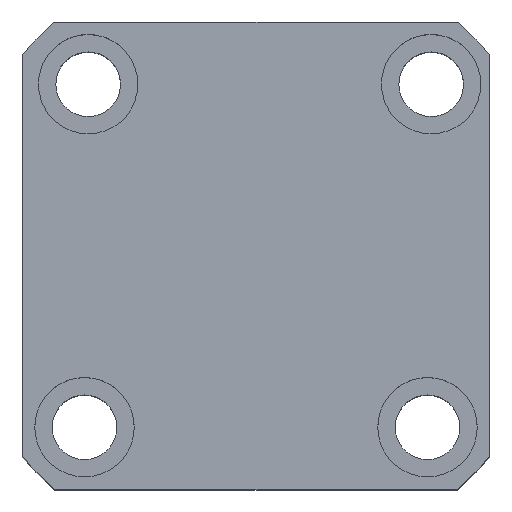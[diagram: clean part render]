
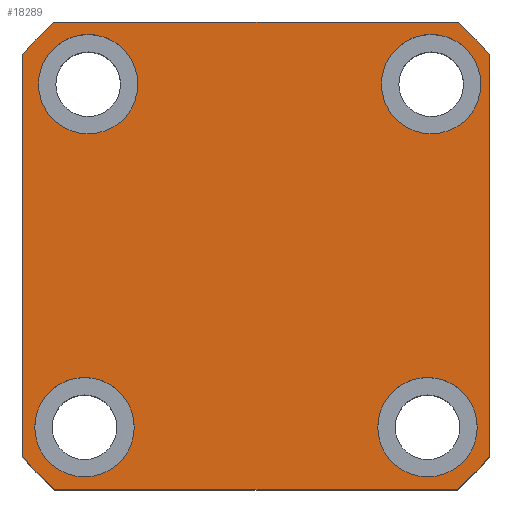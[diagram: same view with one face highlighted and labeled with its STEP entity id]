
A CAD part, top view. The second image highlights one B-rep face of the part: STEP entity #18289.
In plain terms, the highlighted planar face has unit normal (0, 0, 1) as drawn and (0, 0, -1) by its records, which use the part's own axes.
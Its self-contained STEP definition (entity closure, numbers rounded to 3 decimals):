
#180 = ORIENTED_EDGE ( 'NONE', *, *, #4989, .F. ) ;
#868 = CARTESIAN_POINT ( 'NONE',  ( -47., 47., 0. ) ) ;
#869 = CARTESIAN_POINT ( 'NONE',  ( -24.5, 34.5, 0. ) ) ;
#1124 = EDGE_CURVE ( 'NONE', #4373, #7284, #8603, .T. ) ;
#1255 = CARTESIAN_POINT ( 'NONE',  ( 47., 40.435, 0. ) ) ;
#1866 = EDGE_CURVE ( 'NONE', #8916, #2169, #22168, .T. ) ;
#1953 = ORIENTED_EDGE ( 'NONE', *, *, #10581, .F. ) ;
#1976 = AXIS2_PLACEMENT_3D ( 'NONE', #20185, #9822, #21954 ) ;
#1983 = VECTOR ( 'NONE', #4515, 1000. ) ;
#2008 = AXIS2_PLACEMENT_3D ( 'NONE', #15107, #4727, #16868 ) ;
#2026 = CIRCLE ( 'NONE', #6774, 10. ) ;
#2169 = VERTEX_POINT ( 'NONE', #5554 ) ;
#2244 = FACE_BOUND ( 'NONE', #13581, .T. ) ;
#2349 = ORIENTED_EDGE ( 'NONE', *, *, #6326, .F. ) ;
#3197 = ORIENTED_EDGE ( 'NONE', *, *, #1866, .F. ) ;
#3389 = EDGE_CURVE ( 'NONE', #7008, #6447, #22133, .T. ) ;
#3610 = CARTESIAN_POINT ( 'NONE',  ( -23.77, -34.5, 0. ) ) ;
#3809 = EDGE_LOOP ( 'NONE', ( #2349, #18902 ) ) ;
#3928 = DIRECTION ( 'NONE',  ( 1., 0., 0. ) ) ;
#3933 = CIRCLE ( 'NONE', #4156, 62. ) ;
#4156 = AXIS2_PLACEMENT_3D ( 'NONE', #14976, #4583, #16724 ) ;
#4191 = ORIENTED_EDGE ( 'NONE', *, *, #8005, .F. ) ;
#4328 = DIRECTION ( 'NONE',  ( 0., 0., 1. ) ) ;
#4373 = VERTEX_POINT ( 'NONE', #16591 ) ;
#4418 = AXIS2_PLACEMENT_3D ( 'NONE', #8633, #8605, #8571 ) ;
#4515 = DIRECTION ( 'NONE',  ( 0., 1., 0. ) ) ;
#4583 = DIRECTION ( 'NONE',  ( 0., 0., 1. ) ) ;
#4727 = DIRECTION ( 'NONE',  ( 0., 0., -1. ) ) ;
#4989 = EDGE_CURVE ( 'NONE', #7284, #15973, #5854, .T. ) ;
#5474 = CARTESIAN_POINT ( 'NONE',  ( -34.5, 34.5, 0. ) ) ;
#5554 = CARTESIAN_POINT ( 'NONE',  ( 24.5, 34.5, 0. ) ) ;
#5584 = LINE ( 'NONE', #14315, #14786 ) ;
#5585 = ORIENTED_EDGE ( 'NONE', *, *, #1124, .F. ) ;
#5854 = CIRCLE ( 'NONE', #12018, 62. ) ;
#5900 = EDGE_CURVE ( 'NONE', #7348, #7008, #5584, .T. ) ;
#5946 = CARTESIAN_POINT ( 'NONE',  ( 45.23, -34.5, 0. ) ) ;
#5978 = EDGE_LOOP ( 'NONE', ( #4191, #14413, #19898, #17018, #8578, #11260, #180, #5585 ) ) ;
#6262 = CARTESIAN_POINT ( 'NONE',  ( 47., 47., 0. ) ) ;
#6306 = FACE_OUTER_BOUND ( 'NONE', #5978, .T. ) ;
#6326 = EDGE_CURVE ( 'NONE', #18243, #9742, #13721, .T. ) ;
#6433 = VERTEX_POINT ( 'NONE', #1255 ) ;
#6447 = VERTEX_POINT ( 'NONE', #15114 ) ;
#6561 = PLANE ( 'NONE',  #21072 ) ;
#6597 = CIRCLE ( 'NONE', #2008, 10. ) ;
#6727 = VERTEX_POINT ( 'NONE', #13432 ) ;
#6774 = AXIS2_PLACEMENT_3D ( 'NONE', #8723, #20850, #10496 ) ;
#7008 = VERTEX_POINT ( 'NONE', #8895 ) ;
#7207 = DIRECTION ( 'NONE',  ( -1., 0., 0. ) ) ;
#7284 = VERTEX_POINT ( 'NONE', #9341 ) ;
#7348 = VERTEX_POINT ( 'NONE', #19862 ) ;
#7422 = CARTESIAN_POINT ( 'NONE',  ( 35.23, -34.5, 0. ) ) ;
#7526 = DIRECTION ( 'NONE',  ( 0., 0., -1. ) ) ;
#7863 = EDGE_LOOP ( 'NONE', ( #14300, #1953 ) ) ;
#8005 = EDGE_CURVE ( 'NONE', #6433, #4373, #3933, .T. ) ;
#8213 = CARTESIAN_POINT ( 'NONE',  ( 0., 0., 0. ) ) ;
#8281 = DIRECTION ( 'NONE',  ( 0., 0., 1. ) ) ;
#8571 = DIRECTION ( 'NONE',  ( -1., 0., 0. ) ) ;
#8578 = ORIENTED_EDGE ( 'NONE', *, *, #14295, .F. ) ;
#8603 = LINE ( 'NONE', #868, #17845 ) ;
#8605 = DIRECTION ( 'NONE',  ( 0., 0., -1. ) ) ;
#8633 = CARTESIAN_POINT ( 'NONE',  ( 34.5, 34.5, 0. ) ) ;
#8713 = CARTESIAN_POINT ( 'NONE',  ( -47., 40.435, 0. ) ) ;
#8723 = CARTESIAN_POINT ( 'NONE',  ( -34.5, 34.5, 0. ) ) ;
#8895 = CARTESIAN_POINT ( 'NONE',  ( 40.435, -47., 0. ) ) ;
#8916 = VERTEX_POINT ( 'NONE', #13673 ) ;
#8959 = EDGE_CURVE ( 'NONE', #15973, #6727, #21004, .T. ) ;
#9035 = EDGE_CURVE ( 'NONE', #14611, #18975, #2026, .T. ) ;
#9187 = DIRECTION ( 'NONE',  ( -1., 0., 0. ) ) ;
#9341 = CARTESIAN_POINT ( 'NONE',  ( -40.435, 47., 0. ) ) ;
#9366 = AXIS2_PLACEMENT_3D ( 'NONE', #14713, #4328, #16462 ) ;
#9596 = DIRECTION ( 'NONE',  ( 0., 0., 1. ) ) ;
#9742 = VERTEX_POINT ( 'NONE', #5946 ) ;
#9822 = DIRECTION ( 'NONE',  ( 0., 0., -1. ) ) ;
#9986 = DIRECTION ( 'NONE',  ( 1., 0., 0. ) ) ;
#10280 = CARTESIAN_POINT ( 'NONE',  ( -33.77, -34.5, 0. ) ) ;
#10496 = DIRECTION ( 'NONE',  ( -1., 0., 0. ) ) ;
#10499 = AXIS2_PLACEMENT_3D ( 'NONE', #17949, #7526, #19664 ) ;
#10581 = EDGE_CURVE ( 'NONE', #20622, #19071, #6597, .T. ) ;
#10672 = LINE ( 'NONE', #6262, #1983 ) ;
#10950 = FACE_BOUND ( 'NONE', #17388, .T. ) ;
#11260 = ORIENTED_EDGE ( 'NONE', *, *, #8959, .F. ) ;
#11335 = EDGE_CURVE ( 'NONE', #9742, #18243, #16636, .T. ) ;
#11488 = FACE_BOUND ( 'NONE', #7863, .T. ) ;
#12018 = AXIS2_PLACEMENT_3D ( 'NONE', #19955, #9596, #21730 ) ;
#12025 = DIRECTION ( 'NONE',  ( -1., 0., 0. ) ) ;
#12063 = AXIS2_PLACEMENT_3D ( 'NONE', #10280, #22400, #12025 ) ;
#12071 = EDGE_CURVE ( 'NONE', #18975, #14611, #21515, .T. ) ;
#12340 = EDGE_CURVE ( 'NONE', #6447, #6433, #10672, .T. ) ;
#12492 = AXIS2_PLACEMENT_3D ( 'NONE', #8213, #20355, #9986 ) ;
#13145 = CARTESIAN_POINT ( 'NONE',  ( -44.5, 34.5, 0. ) ) ;
#13432 = CARTESIAN_POINT ( 'NONE',  ( -47., -40.435, 0. ) ) ;
#13581 = EDGE_LOOP ( 'NONE', ( #17325, #16745 ) ) ;
#13673 = CARTESIAN_POINT ( 'NONE',  ( 44.5, 34.5, 0. ) ) ;
#13721 = CIRCLE ( 'NONE', #1976, 10. ) ;
#14295 = EDGE_CURVE ( 'NONE', #6727, #7348, #18845, .T. ) ;
#14300 = ORIENTED_EDGE ( 'NONE', *, *, #14836, .F. ) ;
#14315 = CARTESIAN_POINT ( 'NONE',  ( -47., -47., 0. ) ) ;
#14359 = AXIS2_PLACEMENT_3D ( 'NONE', #7422, #19569, #9187 ) ;
#14413 = ORIENTED_EDGE ( 'NONE', *, *, #12340, .F. ) ;
#14611 = VERTEX_POINT ( 'NONE', #13145 ) ;
#14713 = CARTESIAN_POINT ( 'NONE',  ( 0., 0., 0. ) ) ;
#14786 = VECTOR ( 'NONE', #3928, 1000. ) ;
#14836 = EDGE_CURVE ( 'NONE', #19071, #20622, #17220, .T. ) ;
#14976 = CARTESIAN_POINT ( 'NONE',  ( 0., 0., 0. ) ) ;
#15107 = CARTESIAN_POINT ( 'NONE',  ( -33.77, -34.5, 0. ) ) ;
#15114 = CARTESIAN_POINT ( 'NONE',  ( 47., -40.435, 0. ) ) ;
#15121 = CARTESIAN_POINT ( 'NONE',  ( 0., 0., 0. ) ) ;
#15397 = CARTESIAN_POINT ( 'NONE',  ( -47., 47., 0. ) ) ;
#15535 = FACE_BOUND ( 'NONE', #3809, .T. ) ;
#15973 = VERTEX_POINT ( 'NONE', #8713 ) ;
#16462 = DIRECTION ( 'NONE',  ( 1., 0., 0. ) ) ;
#16591 = CARTESIAN_POINT ( 'NONE',  ( 40.435, 47., 0. ) ) ;
#16636 = CIRCLE ( 'NONE', #14359, 10. ) ;
#16704 = CARTESIAN_POINT ( 'NONE',  ( -43.77, -34.5, 0. ) ) ;
#16724 = DIRECTION ( 'NONE',  ( 1., 0., 0. ) ) ;
#16745 = ORIENTED_EDGE ( 'NONE', *, *, #12071, .F. ) ;
#16779 = ORIENTED_EDGE ( 'NONE', *, *, #19905, .F. ) ;
#16868 = DIRECTION ( 'NONE',  ( -1., 0., 0. ) ) ;
#16882 = CARTESIAN_POINT ( 'NONE',  ( 25.23, -34.5, 0. ) ) ;
#17018 = ORIENTED_EDGE ( 'NONE', *, *, #5900, .F. ) ;
#17153 = DIRECTION ( 'NONE',  ( 0., -1., 0. ) ) ;
#17220 = CIRCLE ( 'NONE', #12063, 10. ) ;
#17325 = ORIENTED_EDGE ( 'NONE', *, *, #9035, .F. ) ;
#17388 = EDGE_LOOP ( 'NONE', ( #16779, #3197 ) ) ;
#17411 = AXIS2_PLACEMENT_3D ( 'NONE', #5474, #17618, #7207 ) ;
#17618 = DIRECTION ( 'NONE',  ( 0., 0., -1. ) ) ;
#17845 = VECTOR ( 'NONE', #21490, 1000. ) ;
#17949 = CARTESIAN_POINT ( 'NONE',  ( 34.5, 34.5, 0. ) ) ;
#18243 = VERTEX_POINT ( 'NONE', #16882 ) ;
#18289 = ADVANCED_FACE ( 'NONE', ( #15535, #11488, #2244, #10950, #6306 ), #6561, .F. ) ;
#18845 = CIRCLE ( 'NONE', #12492, 62. ) ;
#18902 = ORIENTED_EDGE ( 'NONE', *, *, #11335, .F. ) ;
#18975 = VERTEX_POINT ( 'NONE', #869 ) ;
#19071 = VERTEX_POINT ( 'NONE', #16704 ) ;
#19569 = DIRECTION ( 'NONE',  ( 0., 0., -1. ) ) ;
#19664 = DIRECTION ( 'NONE',  ( -1., 0., 0. ) ) ;
#19862 = CARTESIAN_POINT ( 'NONE',  ( -40.435, -47., 0. ) ) ;
#19898 = ORIENTED_EDGE ( 'NONE', *, *, #3389, .F. ) ;
#19905 = EDGE_CURVE ( 'NONE', #2169, #8916, #20665, .T. ) ;
#19955 = CARTESIAN_POINT ( 'NONE',  ( 0., 0., 0. ) ) ;
#20185 = CARTESIAN_POINT ( 'NONE',  ( 35.23, -34.5, 0. ) ) ;
#20355 = DIRECTION ( 'NONE',  ( 0., 0., 1. ) ) ;
#20423 = DIRECTION ( 'NONE',  ( 1., 0., 0. ) ) ;
#20441 = VECTOR ( 'NONE', #17153, 1000. ) ;
#20622 = VERTEX_POINT ( 'NONE', #3610 ) ;
#20665 = CIRCLE ( 'NONE', #10499, 10. ) ;
#20850 = DIRECTION ( 'NONE',  ( 0., 0., -1. ) ) ;
#21004 = LINE ( 'NONE', #15397, #20441 ) ;
#21072 = AXIS2_PLACEMENT_3D ( 'NONE', #15121, #8281, #20423 ) ;
#21490 = DIRECTION ( 'NONE',  ( -1., 0., 0. ) ) ;
#21515 = CIRCLE ( 'NONE', #17411, 10. ) ;
#21730 = DIRECTION ( 'NONE',  ( 1., 0., 0. ) ) ;
#21954 = DIRECTION ( 'NONE',  ( -1., 0., 0. ) ) ;
#22133 = CIRCLE ( 'NONE', #9366, 62. ) ;
#22168 = CIRCLE ( 'NONE', #4418, 10. ) ;
#22400 = DIRECTION ( 'NONE',  ( 0., 0., -1. ) ) ;
